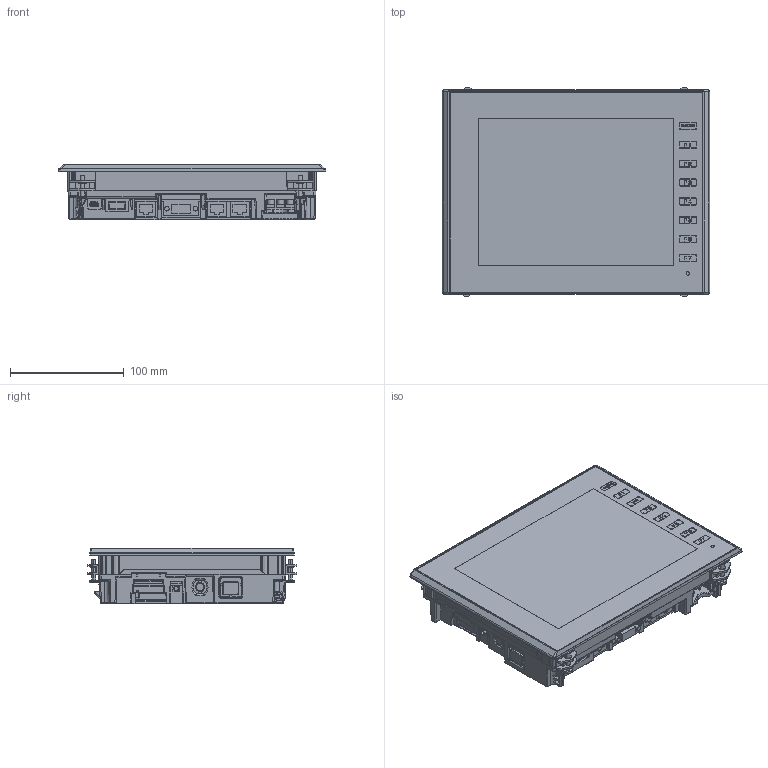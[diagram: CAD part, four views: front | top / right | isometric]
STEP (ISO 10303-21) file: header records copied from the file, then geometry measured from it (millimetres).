
FILE_DESCRIPTION((''),'2;1');
FILE_NAME('V9080ISD_3D-DATA','2014-05-09T',('ichinose'),('Hakko Electronics Co.,Ltd.'),'PRO/ENGINEER BY PARAMETRIC TECHNOLOGY CORPORATION, 2007390','PRO/ENGINEER BY PARAMETRIC TECHNOLOGY CORPORATION, 2007390','');
FILE_SCHEMA(('CONFIG_CONTROL_DESIGN'));
Products named in the file (1): V9080ISD_3D-DATA
Bounding box: 235 x 183.7 x 48.9 mm (x, y, z)
Volume: 1687915.6 mm3; surface area: 137668.9 mm2
Topology: 1 solids, 1 shells, 3467 faces, 9589 edges, 6236 vertices
Faces by surface type: plane 2727, cylinder 474, bspline 107, cone 60, sphere 51, torus 39, extrusion 9
Entity records: 121378 total; most frequent: CARTESIAN_POINT 34154, ORIENTED_EDGE 19178, DIRECTION 16265, EDGE_CURVE 9589, VECTOR 8105, LINE 8096, VERTEX_POINT 6236, AXIS2_PLACEMENT_3D 4080
